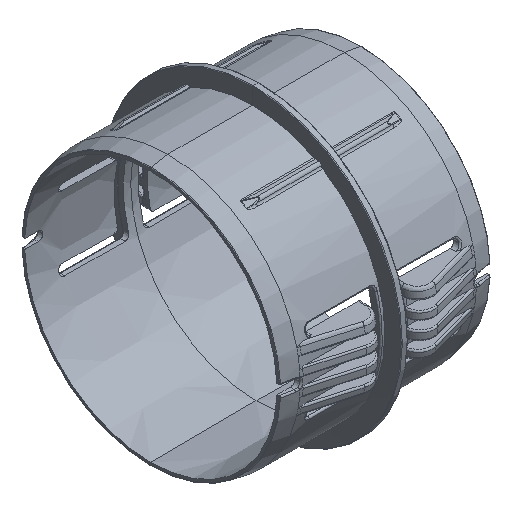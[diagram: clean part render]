
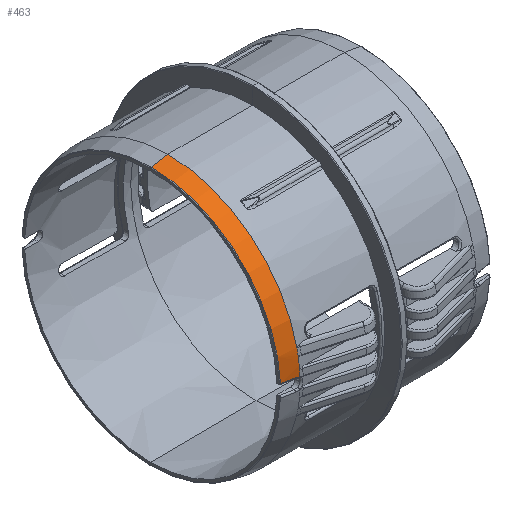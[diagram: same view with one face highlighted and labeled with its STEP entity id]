
A CAD part, isometric view. The second image highlights one B-rep face of the part: STEP entity #463.
In plain terms, the highlighted conical face has half-angle 10 degrees and reference radius 44 mm.
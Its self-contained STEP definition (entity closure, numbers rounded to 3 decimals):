
#463 = ADVANCED_FACE ( 'NONE', ( #627 ), #12169, .T. ) ;
#627 = FACE_OUTER_BOUND ( 'NONE', #15118, .T. ) ;
#1215 = CARTESIAN_POINT ( 'NONE',  ( -29.33, -43.966, 1.719 ) ) ;
#1277 = ORIENTED_EDGE ( 'NONE', *, *, #15890, .T. ) ;
#1411 = ORIENTED_EDGE ( 'NONE', *, *, #14558, .T. ) ;
#1440 = CARTESIAN_POINT ( 'NONE',  ( -29.329, 0., 0. ) ) ;
#1463 = VERTEX_POINT ( 'NONE', #5766 ) ;
#2006 = CARTESIAN_POINT ( 'NONE',  ( -34.835, 0., 43.029 ) ) ;
#2042 = CARTESIAN_POINT ( 'NONE',  ( -34.835, -42.979, 2.085 ) ) ;
#2584 = EDGE_CURVE ( 'NONE', #14109, #12592, #17281, .T. ) ;
#2959 = DIRECTION ( 'NONE',  ( -1., 0., 0. ) ) ;
#3024 = AXIS2_PLACEMENT_3D ( 'NONE', #15412, #22654, #19323 ) ;
#3420 = VECTOR ( 'NONE', #11020, 1000. ) ;
#3473 = CARTESIAN_POINT ( 'NONE',  ( -29.344, -43.965, 1.684 ) ) ;
#4095 = ORIENTED_EDGE ( 'NONE', *, *, #16663, .T. ) ;
#4162 = CARTESIAN_POINT ( 'NONE',  ( -29.329, 0., 0. ) ) ;
#4663 = CARTESIAN_POINT ( 'NONE',  ( -29.329, -43.966, 1.728 ) ) ;
#4679 = VERTEX_POINT ( 'NONE', #5803 ) ;
#4680 = CARTESIAN_POINT ( 'NONE',  ( -29.329, 0., 0. ) ) ;
#4857 = AXIS2_PLACEMENT_3D ( 'NONE', #1440, #14112, #8459 ) ;
#4984 = CARTESIAN_POINT ( 'NONE',  ( -29.344, -43.965, 1.684 ) ) ;
#5034 = VERTEX_POINT ( 'NONE', #22755 ) ;
#5083 = CARTESIAN_POINT ( 'NONE',  ( -29.721, -43.889, 1.922 ) ) ;
#5717 = CARTESIAN_POINT ( 'NONE',  ( -32.762, -43.344, 2.091 ) ) ;
#5766 = CARTESIAN_POINT ( 'NONE',  ( -29.329, -43.35, 7.534 ) ) ;
#5803 = CARTESIAN_POINT ( 'NONE',  ( -30.587, -43.728, 2.098 ) ) ;
#5837 = CARTESIAN_POINT ( 'NONE',  ( -29.329, 0., 44. ) ) ;
#6059 = LINE ( 'NONE', #5837, #3420 ) ;
#6160 = B_SPLINE_CURVE_WITH_KNOTS ( 'NONE', 3,
 ( #18471, #16968, #6622, #10076, #1215, #4663, #9737 ),
 .UNSPECIFIED., .F., .F.,
 ( 4, 3, 4 ),
 ( 0., 0., 0. ),
 .UNSPECIFIED. ) ;
#6266 = EDGE_CURVE ( 'NONE', #10670, #5034, #10371, .T. ) ;
#6386 = CARTESIAN_POINT ( 'NONE',  ( -30.587, -43.728, 2.098 ) ) ;
#6622 = CARTESIAN_POINT ( 'NONE',  ( -29.334, -43.966, 1.701 ) ) ;
#6732 = CIRCLE ( 'NONE', #17750, 44. ) ;
#7170 = CARTESIAN_POINT ( 'NONE',  ( -29.523, -43.928, 1.819 ) ) ;
#7336 = CARTESIAN_POINT ( 'NONE',  ( -34.506, -43.037, 2.086 ) ) ;
#7351 = ORIENTED_EDGE ( 'NONE', *, *, #19090, .T. ) ;
#8459 = DIRECTION ( 'NONE',  ( 0., 0., 1. ) ) ;
#8532 = CARTESIAN_POINT ( 'NONE',  ( -29.329, 0., 0. ) ) ;
#8539 = CARTESIAN_POINT ( 'NONE',  ( -30.363, -43.767, 2.098 ) ) ;
#8844 = DIRECTION ( 'NONE',  ( 0., 0., 1. ) ) ;
#9024 = DIRECTION ( 'NONE',  ( -1., 0., 0. ) ) ;
#9737 = CARTESIAN_POINT ( 'NONE',  ( -29.329, -43.966, 1.736 ) ) ;
#10014 = ORIENTED_EDGE ( 'NONE', *, *, #16440, .T. ) ;
#10076 = CARTESIAN_POINT ( 'NONE',  ( -29.332, -43.966, 1.711 ) ) ;
#10371 = CIRCLE ( 'NONE', #17345, 44. ) ;
#10457 = DIRECTION ( 'NONE',  ( 1., 0., 0. ) ) ;
#10670 = VERTEX_POINT ( 'NONE', #15487 ) ;
#11020 = DIRECTION ( 'NONE',  ( -0.985, 0., -0.174 ) ) ;
#11702 = DIRECTION ( 'NONE',  ( 0., 0., 1. ) ) ;
#11790 = VERTEX_POINT ( 'NONE', #4984 ) ;
#12105 = DIRECTION ( 'NONE',  ( 0., 0., 1. ) ) ;
#12169 = CONICAL_SURFACE ( 'NONE', #14745, 44., 0.175 ) ;
#12267 = ORIENTED_EDGE ( 'NONE', *, *, #2584, .T. ) ;
#12452 = DIRECTION ( 'NONE',  ( -1., 0., 0. ) ) ;
#12592 = VERTEX_POINT ( 'NONE', #14543 ) ;
#12740 = CARTESIAN_POINT ( 'NONE',  ( -31.675, -43.536, 2.094 ) ) ;
#13018 = AXIS2_PLACEMENT_3D ( 'NONE', #8532, #12452, #12105 ) ;
#14019 = DIRECTION ( 'NONE',  ( -1., 0., 0. ) ) ;
#14109 = VERTEX_POINT ( 'NONE', #21277 ) ;
#14112 = DIRECTION ( 'NONE',  ( -1., 0., 0. ) ) ;
#14359 = CARTESIAN_POINT ( 'NONE',  ( -34.178, -43.094, 2.087 ) ) ;
#14472 = CARTESIAN_POINT ( 'NONE',  ( -33.85, -43.152, 2.088 ) ) ;
#14543 = CARTESIAN_POINT ( 'NONE',  ( -29.329, 0., 44. ) ) ;
#14558 = EDGE_CURVE ( 'NONE', #4679, #11790, #22183, .T. ) ;
#14745 = AXIS2_PLACEMENT_3D ( 'NONE', #21036, #10457, #19310 ) ;
#14876 = EDGE_CURVE ( 'NONE', #18663, #16074, #19917, .T. ) ;
#15088 = CARTESIAN_POINT ( 'NONE',  ( -29.329, -43.835, 3.809 ) ) ;
#15118 = EDGE_LOOP ( 'NONE', ( #1411, #10014, #20561, #21692, #4095, #7351, #12267, #21363, #17450, #1277 ) ) ;
#15412 = CARTESIAN_POINT ( 'NONE',  ( -34.835, 0., 0. ) ) ;
#15487 = CARTESIAN_POINT ( 'NONE',  ( -29.329, -43.966, 1.736 ) ) ;
#15890 = EDGE_CURVE ( 'NONE', #16074, #4679, #18827, .T. ) ;
#15954 = CIRCLE ( 'NONE', #13018, 44. ) ;
#16074 = VERTEX_POINT ( 'NONE', #21568 ) ;
#16440 = EDGE_CURVE ( 'NONE', #11790, #10670, #6160, .T. ) ;
#16663 = EDGE_CURVE ( 'NONE', #20193, #1463, #20661, .T. ) ;
#16968 = CARTESIAN_POINT ( 'NONE',  ( -29.338, -43.966, 1.692 ) ) ;
#17098 = EDGE_CURVE ( 'NONE', #5034, #20193, #6732, .T. ) ;
#17115 = CARTESIAN_POINT ( 'NONE',  ( -29.329, 0., 0. ) ) ;
#17281 = CIRCLE ( 'NONE', #20580, 44. ) ;
#17336 = EDGE_CURVE ( 'NONE', #12592, #18663, #6059, .T. ) ;
#17345 = AXIS2_PLACEMENT_3D ( 'NONE', #17115, #14019, #8844 ) ;
#17450 = ORIENTED_EDGE ( 'NONE', *, *, #14876, .T. ) ;
#17750 = AXIS2_PLACEMENT_3D ( 'NONE', #4162, #9024, #21429 ) ;
#18471 = CARTESIAN_POINT ( 'NONE',  ( -29.344, -43.965, 1.684 ) ) ;
#18663 = VERTEX_POINT ( 'NONE', #2006 ) ;
#18827 = B_SPLINE_CURVE_WITH_KNOTS ( 'NONE', 3,
 ( #2042, #7336, #14359, #14472, #5717, #12740, #6386 ),
 .UNSPECIFIED., .F., .F.,
 ( 4, 3, 4 ),
 ( 0., 0.001, 0.004 ),
 .UNSPECIFIED. ) ;
#19090 = EDGE_CURVE ( 'NONE', #1463, #14109, #15954, .T. ) ;
#19310 = DIRECTION ( 'NONE',  ( 0., 0., -1. ) ) ;
#19323 = DIRECTION ( 'NONE',  ( 0., 0., 1. ) ) ;
#19917 = CIRCLE ( 'NONE', #3024, 43.029 ) ;
#20193 = VERTEX_POINT ( 'NONE', #15088 ) ;
#20561 = ORIENTED_EDGE ( 'NONE', *, *, #6266, .T. ) ;
#20580 = AXIS2_PLACEMENT_3D ( 'NONE', #4680, #2959, #11702 ) ;
#20661 = CIRCLE ( 'NONE', #4857, 44. ) ;
#20730 = CARTESIAN_POINT ( 'NONE',  ( -30.587, -43.728, 2.098 ) ) ;
#21036 = CARTESIAN_POINT ( 'NONE',  ( -29.329, 0., 0. ) ) ;
#21277 = CARTESIAN_POINT ( 'NONE',  ( -29.329, -42.925, 9.667 ) ) ;
#21363 = ORIENTED_EDGE ( 'NONE', *, *, #17336, .T. ) ;
#21429 = DIRECTION ( 'NONE',  ( 0., 0., 1. ) ) ;
#21568 = CARTESIAN_POINT ( 'NONE',  ( -34.835, -42.979, 2.085 ) ) ;
#21692 = ORIENTED_EDGE ( 'NONE', *, *, #17098, .T. ) ;
#22183 = B_SPLINE_CURVE_WITH_KNOTS ( 'NONE', 3,
 ( #20730, #8539, #22446, #5083, #7170, #3473 ),
 .UNSPECIFIED., .F., .F.,
 ( 4, 2, 4 ),
 ( 0., 0.001, 0.001 ),
 .UNSPECIFIED. ) ;
#22446 = CARTESIAN_POINT ( 'NONE',  ( -30.144, -43.808, 2.063 ) ) ;
#22654 = DIRECTION ( 'NONE',  ( 1., 0., 0. ) ) ;
#22755 = CARTESIAN_POINT ( 'NONE',  ( -29.329, -43.961, 1.862 ) ) ;
